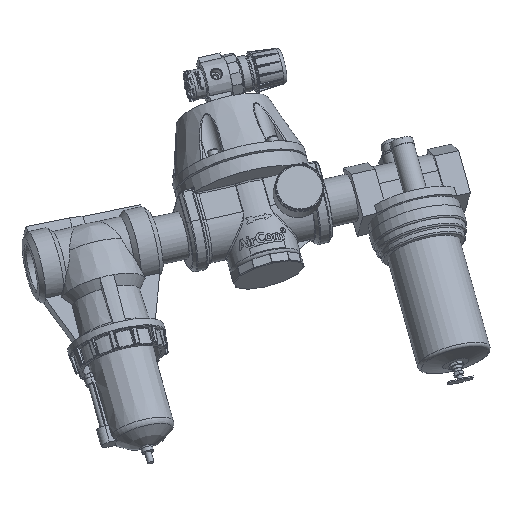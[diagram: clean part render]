
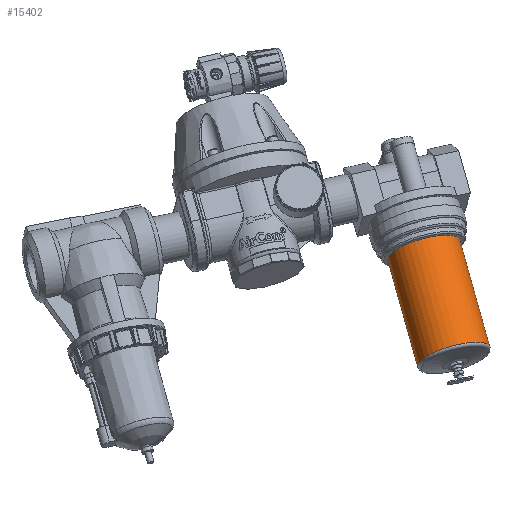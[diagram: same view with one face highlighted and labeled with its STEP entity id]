
A CAD part, front view. The second image highlights one B-rep face of the part: STEP entity #15402.
In plain terms, the highlighted cylindrical face has radius 46.5 mm (diameter 93 mm), a full revolution.
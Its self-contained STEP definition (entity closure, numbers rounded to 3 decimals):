
#15371=CARTESIAN_POINT('',(-46.5,0.,-193.1));
#15372=VERTEX_POINT('',#15371);
#15373=CARTESIAN_POINT('',(0.0,0.0,-193.1));
#15374=DIRECTION('',(0.0,0.0,-1.0));
#15375=DIRECTION('',(1.0,0.0,0.0));
#15376=AXIS2_PLACEMENT_3D('',#15373,#15374,#15375);
#15377=CIRCLE('',#15376,46.5);
#15378=EDGE_CURVE('',#15372,#15372,#15377,.T.);
#15383=CARTESIAN_POINT('',(0.0,0.0,-48.1));
#15384=DIRECTION('',(0.0,0.0,-1.0));
#15385=DIRECTION('',(1.0,0.0,0.0));
#15386=AXIS2_PLACEMENT_3D('',#15383,#15384,#15385);
#15387=CYLINDRICAL_SURFACE('',#15386,46.5);
#15388=CARTESIAN_POINT('',(-46.5,0.,-48.1));
#15389=VERTEX_POINT('',#15388);
#15390=CARTESIAN_POINT('',(0.0,0.0,-48.1));
#15391=DIRECTION('',(0.0,0.0,1.0));
#15392=DIRECTION('',(1.0,0.0,0.0));
#15393=AXIS2_PLACEMENT_3D('',#15390,#15391,#15392);
#15394=CIRCLE('',#15393,46.5);
#15395=EDGE_CURVE('',#15389,#15389,#15394,.T.);
#15396=ORIENTED_EDGE('',*,*,#15395,.F.);
#15397=EDGE_LOOP('',(#15396));
#15398=FACE_OUTER_BOUND('',#15397,.T.);
#15399=ORIENTED_EDGE('',*,*,#15378,.F.);
#15400=EDGE_LOOP('',(#15399));
#15401=FACE_BOUND('',#15400,.T.);
#15402=ADVANCED_FACE('',(#15398,#15401),#15387,.T.);
